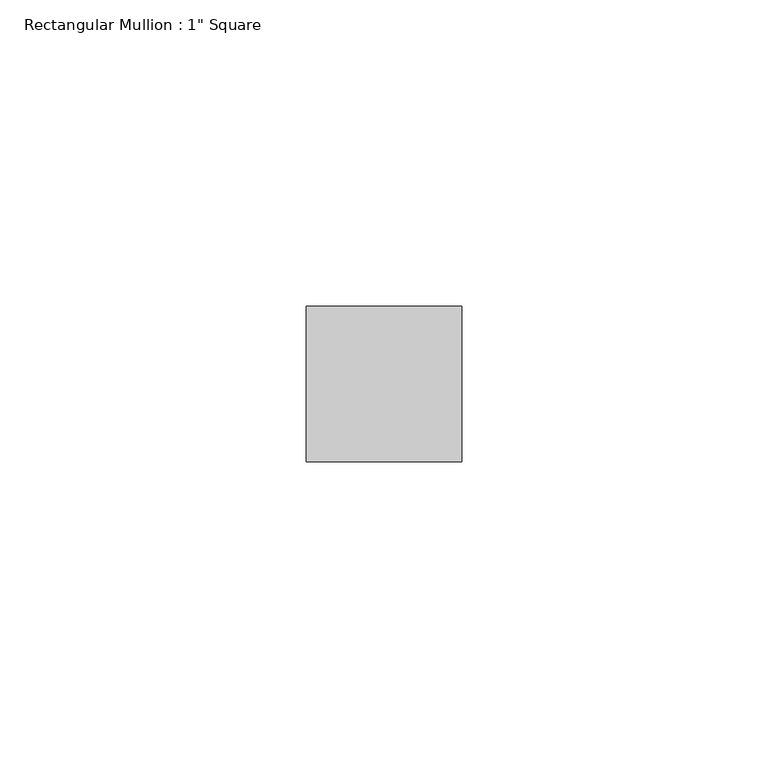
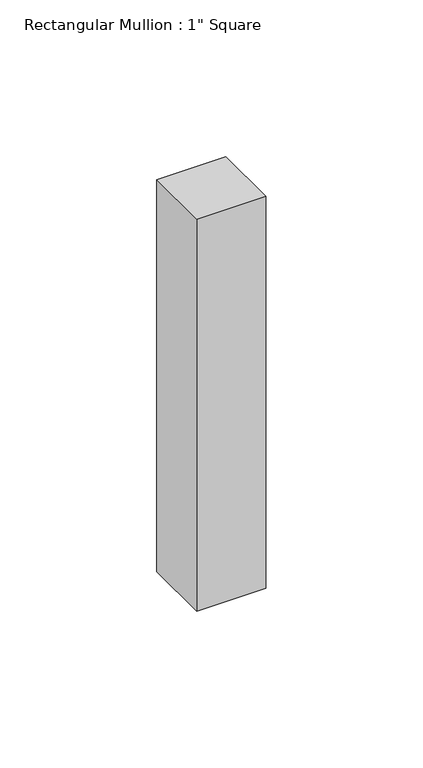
"""IFC4 building model written with IfcOpenShell, lengths in millimetres: member geometry."""

from ifc_helpers import new_model, si_unit, frame, origin, place, context, project, spatial, polyline, outline, extrude, source, transform, mapped, element, save


def member_e752087b(model_context):
    return source(origin(), model_context, "Body", "SweptSolid", [
        extrude(outline(polyline([(0.0, 12.7), (0.0, -12.7), (-25.4, -12.7), (-25.4, 12.7), (0.0, 12.7)])), frame((0.0, 0.0, -152.4), z_axis=(0.0, 0.0, 1.0), x_axis=(1.0, 0.0, 0.0)), (0.0, 0.0, 1.0), 152.4),
    ])


if __name__ == "__main__":
    model = new_model("IFC4")
    model_context = context("Model", 3, world=origin())
    ifc_project = project(units=[si_unit("LENGTHUNIT", "METRE", prefix="MILLI")], contexts=[model_context])
    site = spatial("IfcSite", under=ifc_project)
    building = spatial("IfcBuilding", under=site)
    placement = place(None, origin())
    member_shape = member_e752087b(model_context)
    element("IfcMember", 1, ObjectType="Rectangular Mullion : 1\" Square", at=placement, inside=building, context=model_context, shape_type="MappedRepresentation", body=[
        mapped(member_shape, transform((0.0, 0.0, 0.0), x_axis=(1.0, 0.0, 0.0), y_axis=(0.0, 1.0, 0.0), z_axis=(0.0, 0.0, 1.0))),
    ])
    save(model, "model.ifc")
